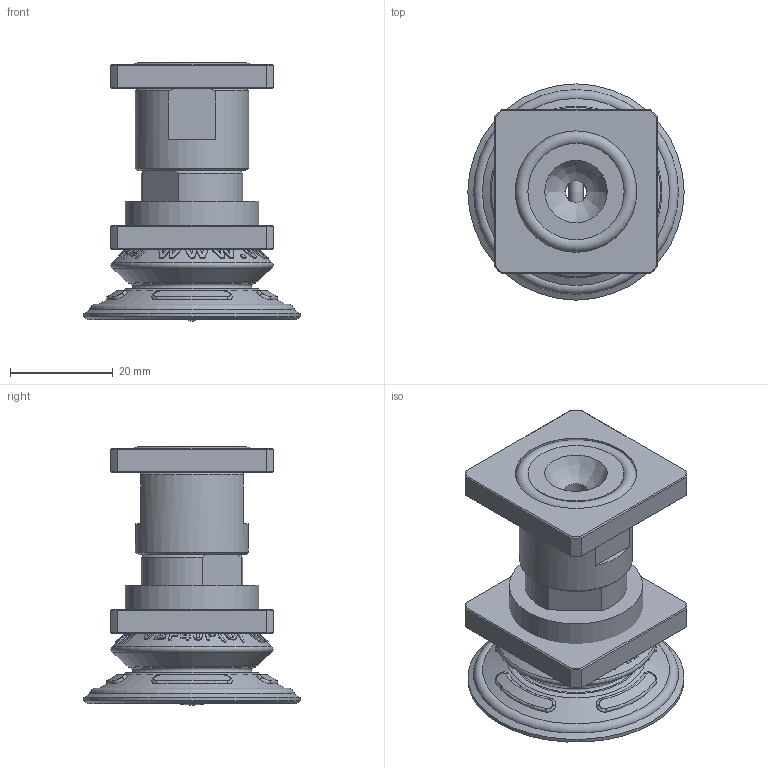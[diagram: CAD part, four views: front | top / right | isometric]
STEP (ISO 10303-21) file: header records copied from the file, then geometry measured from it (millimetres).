
FILE_DESCRIPTION( ( 'Unknown' ), '1' );
FILE_NAME( 'C:/Documents and Settings/owner/官帕 拳搁/啊付快瘤/VBF40-38F-QA.stp', 'Unknown', ( 'Unknown' ), ( 'Unknown' ), 'XStep 1.0', 'Unknown', ' ' );
FILE_SCHEMA( ( 'automotive_design' ) );
Length unit declared in the file: millimetre
Products named in the file (4): Assem1; VBF40; Quick mount adaptor; G18 (3x18)
Bounding box: 42 x 42 x 50.2 mm (x, y, z)
Volume: 40397.9 mm3; surface area: 27857.2 mm2
Topology: 6 solids, 10 shells, 1020 faces, 2610 edges, 1694 vertices
Faces by surface type: plane 512, bspline 180, cylinder 160, cone 130, torus 38
Full cylindrical faces by diameter (mm): 4 x2, 4.3 x2, 6 x4, 6.7 x2, 8.8 x2, 13.5 x2, 14.95 x2, 15 x2, 15.5 x2, 16.1 x2, 16.6 x2, 18.152 x2, 18.7 x2, 22 x2, 23.6 x2, 26 x2, 42 x2
Entity records: 30106 total; most frequent: CARTESIAN_POINT 18704, ORIENTED_EDGE 2454, DIRECTION 1879, EDGE_CURVE 1227, VERTEX_POINT 823, AXIS2_PLACEMENT_3D 707, EDGE_LOOP 616, FACE_OUTER_BOUND 544
